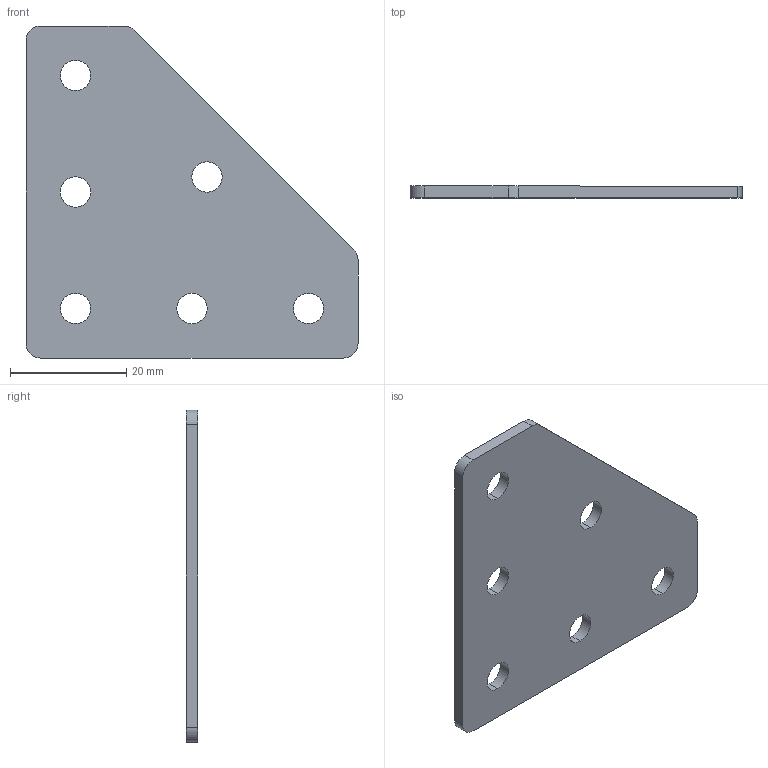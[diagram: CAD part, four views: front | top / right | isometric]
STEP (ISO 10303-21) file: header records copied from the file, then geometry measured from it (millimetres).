
FILE_DESCRIPTION (( 'STEP AP203' ), '1' );
FILE_NAME ('ﾃ-5-ﾓ-20.STEP', '2016-07-19T13:16:32', ( 'RosInstal-MKM' ), ( '' ), 'SwSTEP 2.0', 'SolidWorks 2014', '' );
FILE_SCHEMA (( 'CONFIG_CONTROL_DESIGN' ));
Length unit declared in the file: millimetre
Products named in the file (1): ﾃ-5-ﾓ-20
Bounding box: 57 x 2 x 57 mm (x, y, z)
Surface area: 5303.4 mm2 (no closed solid volume)
Topology: 0 solids, 1 shells, 24 faces, 66 edges, 44 vertices
Faces by surface type: cylinder 17, plane 7
Entity records: 885 total; most frequent: DIRECTION 150, CARTESIAN_POINT 135, ORIENTED_EDGE 132, EDGE_CURVE 66, AXIS2_PLACEMENT_3D 59, VERTEX_POINT 44, EDGE_LOOP 36, CIRCLE 34
